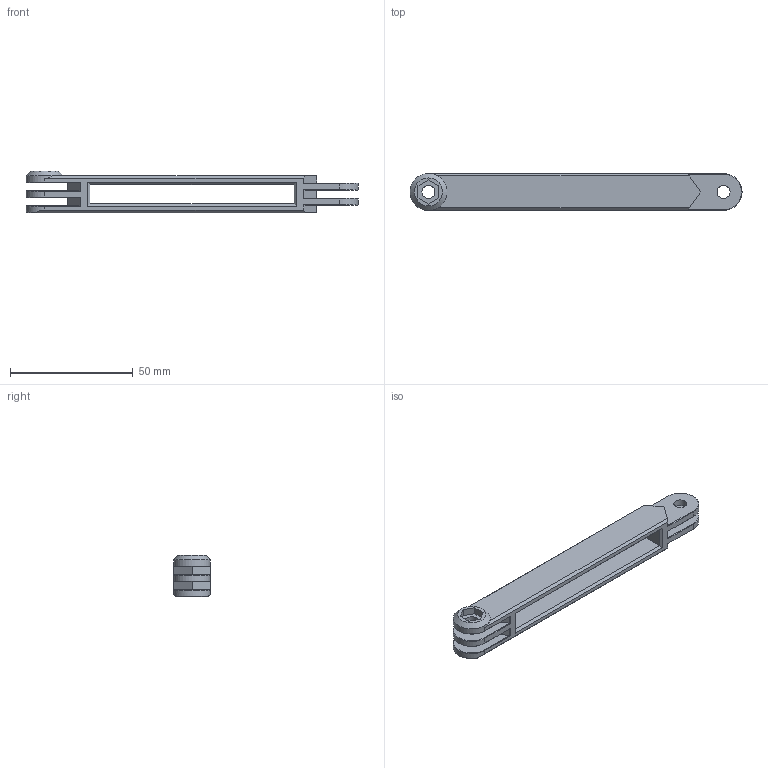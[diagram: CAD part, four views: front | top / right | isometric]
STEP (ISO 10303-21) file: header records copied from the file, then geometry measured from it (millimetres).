
FILE_DESCRIPTION(/* description */ ('STEP AP214'),/* implementation_level */ '2;1');
FILE_NAME(/* name */ '60a1427625d25912eeacad08',/* time_stamp */ '2021-05-16T16:04:07+00:00',/* author */ (''),/* organization */ (''),/* preprocessor_version */ 'ST-DEVELOPER v18.1',/* originating_system */ ' ',/* authorisation */ ' ');
FILE_SCHEMA (('AUTOMOTIVE_DESIGN {1 0 10303 214 3 1 1}'));
Length unit declared in the file: metre
Products named in the file (1): Arm Straight
Bounding box: 135 x 15 x 16.8 mm (x, y, z)
Volume: 15025.6 mm3; surface area: 10347.6 mm2
Topology: 1 solids, 1 shells, 92 faces, 246 edges, 157 vertices
Faces by surface type: plane 72, cylinder 10, cone 10
Full cylindrical faces by diameter (mm): 5.3 x5
Entity records: 2789 total; most frequent: CARTESIAN_POINT 484, ORIENTED_EDGE 468, DIRECTION 453, EDGE_CURVE 234, LINE 197, VECTOR 197, VERTEX_POINT 151, AXIS2_PLACEMENT_3D 128
